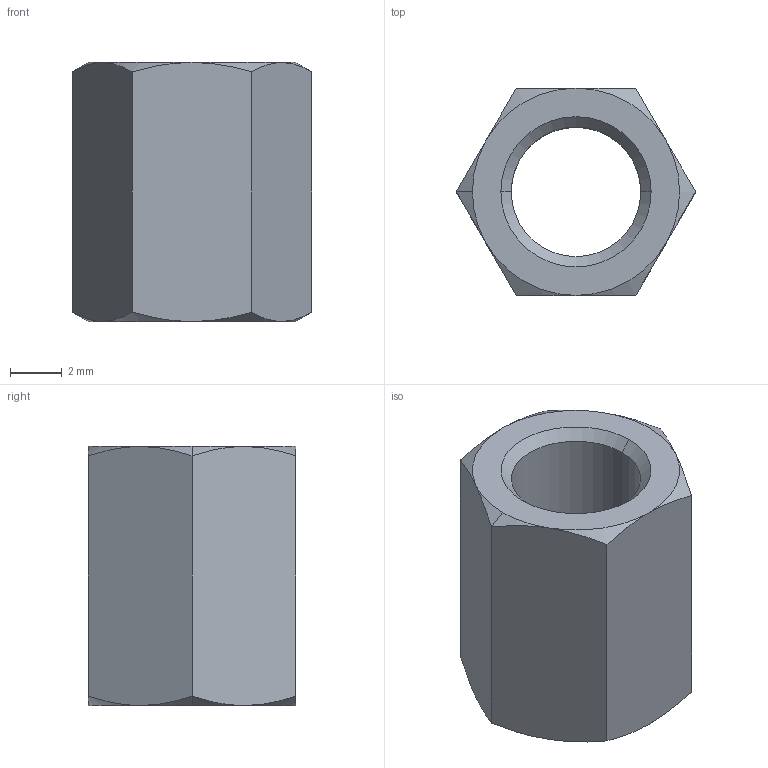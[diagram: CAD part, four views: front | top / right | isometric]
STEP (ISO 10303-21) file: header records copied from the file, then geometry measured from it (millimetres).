
FILE_DESCRIPTION (( 'STEP AP203' ), '1' );
FILE_NAME ('N0503.050-010-NP.step', '2025-02-27T14:43:48', ( '' ), ( '' ), 'SwSTEP 2.0', 'SolidWorks 2019', '' );
FILE_SCHEMA (( 'CONFIG_CONTROL_DESIGN' ));
Length unit declared in the file: millimetre
Products named in the file (1): N0503.050-010-NP
Bounding box: 9.24 x 8 x 10 mm (x, y, z)
Volume: 354.1 mm3; surface area: 493.6 mm2
Topology: 1 solids, 1 shells, 28 faces, 60 edges, 34 vertices
Faces by surface type: cone 18, plane 8, cylinder 2
Entity records: 875 total; most frequent: CARTESIAN_POINT 223, ORIENTED_EDGE 120, DIRECTION 116, EDGE_CURVE 60, AXIS2_PLACEMENT_3D 51, VERTEX_POINT 34, EDGE_LOOP 30, ADVANCED_FACE 28
